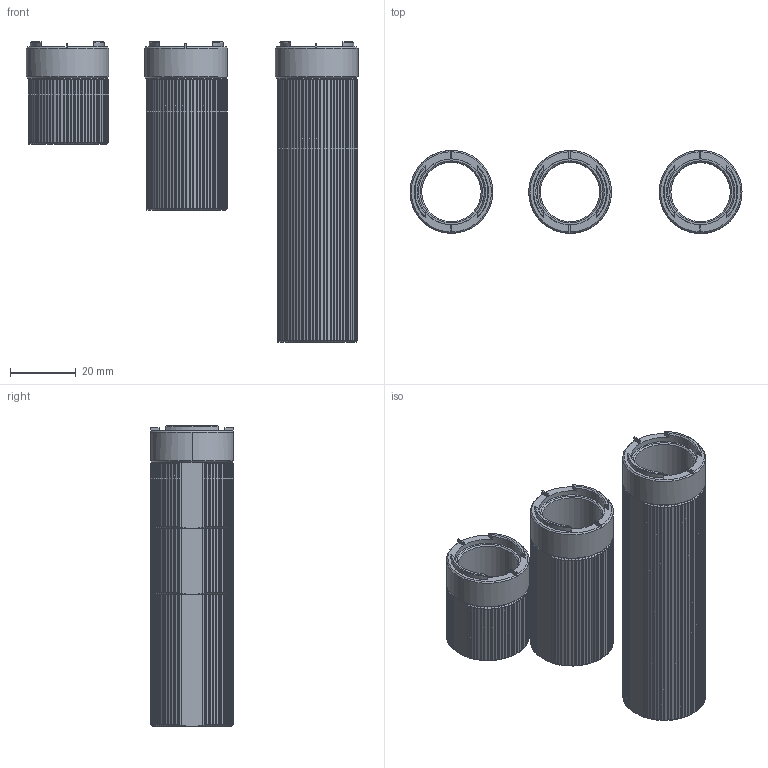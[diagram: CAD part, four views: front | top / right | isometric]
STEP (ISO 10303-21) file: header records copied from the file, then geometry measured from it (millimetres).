
FILE_DESCRIPTION((''),'2;1');
FILE_NAME('SM1-30-50-90_ASM','2020-10-29T',('Administrator'),(''),'CREO PARAMETRIC BY PTC INC, 2015290','CREO PARAMETRIC BY PTC INC, 2015290','');
FILE_SCHEMA(('CONFIG_CONTROL_DESIGN'));
Products named in the file (5): SM1_A1; SM1-30; SM1-50; SM1-90; SM1-30-50-90_ASM
Assembly tree (6 placements, depth 2):
  SM1-30-50-90_ASM
    SM1_A1  x3
    SM1-30
    SM1-50
    SM1-90
Bounding box: 100.64 x 25.1 x 91 mm (x, y, z)
Volume: 38417.1 mm3; surface area: 32076.7 mm2
Topology: 6 solids, 6 shells, 891 faces, 2578 edges, 1710 vertices
Faces by surface type: plane 477, cylinder 297, cone 73, bspline 44
Entity records: 35166 total; most frequent: CARTESIAN_POINT 16147, ORIENTED_EDGE 4508, DIRECTION 3266, EDGE_CURVE 2254, VERTEX_POINT 1500, AXIS2_PLACEMENT_3D 1258, B_SPLINE_CURVE_WITH_KNOTS 996, EDGE_LOOP 784
